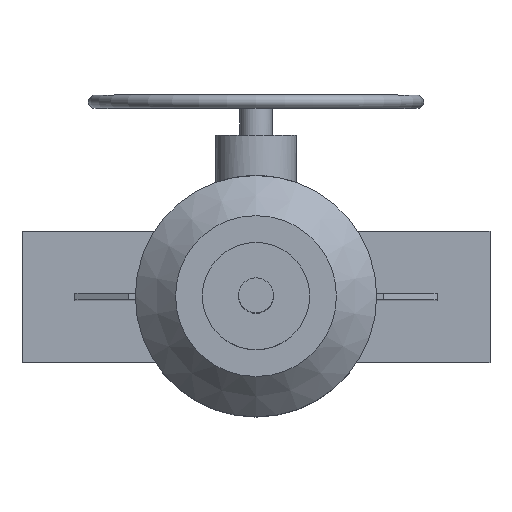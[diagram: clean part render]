
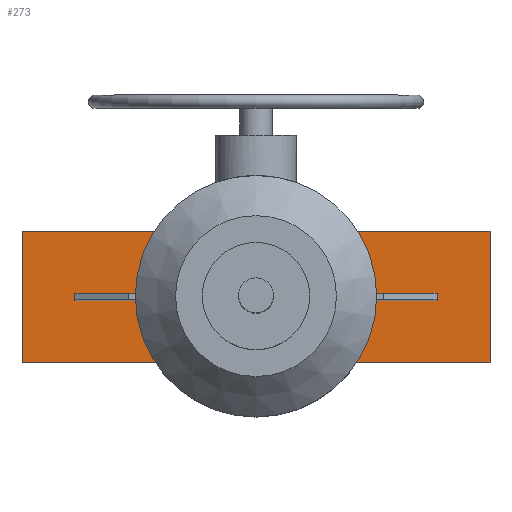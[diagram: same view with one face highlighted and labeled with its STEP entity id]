
A CAD part, top view. The second image highlights one B-rep face of the part: STEP entity #273.
In plain terms, the highlighted planar face has unit normal (0, 0, 1).
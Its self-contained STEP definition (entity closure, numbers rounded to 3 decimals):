
#273=ADVANCED_FACE('',(#1540,#1542),#1544,.T.);
#1540=FACE_BOUND('',#1541,.T.);
#1541=EDGE_LOOP('',(#2601,#2602,#2603,#2604,#2605,#2606,#2607,#2608));
#1542=FACE_BOUND('',#1543,.T.);
#1543=EDGE_LOOP('',(#2609,#2610,#2611,#2612,#2613,#2614,#2615,#2616));
#1544=PLANE('',#1545);
#1545=AXIS2_PLACEMENT_3D('',#1546,#1547,#1548);
#1546=CARTESIAN_POINT('',(0.,0.,280.));
#1547=DIRECTION('',(0.,0.,1.));
#1548=DIRECTION('',(1.,0.,0.));
#2601=ORIENTED_EDGE('',*,*,#3217,.F.);
#2602=ORIENTED_EDGE('',*,*,#3215,.T.);
#2603=ORIENTED_EDGE('',*,*,#3228,.T.);
#2604=ORIENTED_EDGE('',*,*,#3221,.T.);
#2605=ORIENTED_EDGE('',*,*,#3220,.F.);
#2606=ORIENTED_EDGE('',*,*,#3225,.T.);
#2607=ORIENTED_EDGE('',*,*,#3229,.T.);
#2608=ORIENTED_EDGE('',*,*,#3211,.T.);
#2609=ORIENTED_EDGE('',*,*,#3230,.F.);
#2610=ORIENTED_EDGE('',*,*,#3231,.F.);
#2611=ORIENTED_EDGE('',*,*,#3232,.F.);
#2612=ORIENTED_EDGE('',*,*,#3233,.F.);
#2613=ORIENTED_EDGE('',*,*,#3234,.F.);
#2614=ORIENTED_EDGE('',*,*,#3235,.F.);
#2615=ORIENTED_EDGE('',*,*,#3236,.F.);
#2616=ORIENTED_EDGE('',*,*,#3237,.F.);
#3211=EDGE_CURVE('',#3582,#3565,#3583,.T.);
#3215=EDGE_CURVE('',#3545,#3588,#3590,.T.);
#3217=EDGE_CURVE('',#3545,#3565,#3592,.T.);
#3220=EDGE_CURVE('',#3559,#3551,#3596,.T.);
#3221=EDGE_CURVE('',#3597,#3551,#3598,.T.);
#3225=EDGE_CURVE('',#3559,#3603,#3605,.T.);
#3228=EDGE_CURVE('',#3588,#3597,#3610,.T.);
#3229=EDGE_CURVE('',#3603,#3582,#3611,.T.);
#3230=EDGE_CURVE('',#3612,#3613,#3614,.T.);
#3231=EDGE_CURVE('',#3615,#3612,#3616,.F.);
#3232=EDGE_CURVE('',#3617,#3615,#3618,.F.);
#3233=EDGE_CURVE('',#3619,#3617,#3620,.F.);
#3234=EDGE_CURVE('',#3621,#3619,#3622,.T.);
#3235=EDGE_CURVE('',#3623,#3621,#3624,.T.);
#3236=EDGE_CURVE('',#3625,#3623,#3626,.F.);
#3237=EDGE_CURVE('',#3613,#3625,#3627,.T.);
#3545=VERTEX_POINT('',#4172);
#3551=VERTEX_POINT('',#4184);
#3559=VERTEX_POINT('',#4202);
#3565=VERTEX_POINT('',#4214);
#3582=VERTEX_POINT('',#4262);
#3583=LINE('',#4263,#4264);
#3588=VERTEX_POINT('',#4274);
#3590=LINE('',#4278,#4279);
#3592=LINE('',#4284,#4285);
#3596=LINE('',#4295,#4296);
#3597=VERTEX_POINT('',#4298);
#3598=LINE('',#4299,#4300);
#3603=VERTEX_POINT('',#4310);
#3605=LINE('',#4314,#4315);
#3610=LINE('',#4327,#4328);
#3611=LINE('',#4330,#4331);
#3612=VERTEX_POINT('',#4333);
#3613=VERTEX_POINT('',#4334);
#3614=LINE('',#4335,#4336);
#3615=VERTEX_POINT('',#4338);
#3616=LINE('',#4339,#4340);
#3617=VERTEX_POINT('',#4342);
#3618=CIRCLE('',#4343,13.);
#3619=VERTEX_POINT('',#4347);
#3620=LINE('',#4348,#4349);
#3621=VERTEX_POINT('',#4351);
#3622=LINE('',#4352,#4353);
#3623=VERTEX_POINT('',#4355);
#3624=LINE('',#4356,#4357);
#3625=VERTEX_POINT('',#4359);
#3626=CIRCLE('',#4360,13.);
#3627=LINE('',#4364,#4365);
#4172=CARTESIAN_POINT('',(70.,-49.,280.));
#4184=CARTESIAN_POINT('',(70.,49.,280.));
#4202=CARTESIAN_POINT('',(-70.,49.,280.));
#4214=CARTESIAN_POINT('',(-70.,-49.,280.));
#4262=CARTESIAN_POINT('',(-174.5,-49.,280.));
#4263=CARTESIAN_POINT('',(-174.5,-49.,280.));
#4264=VECTOR('',#4265,1.);
#4265=DIRECTION('',(1.,0.,0.));
#4274=CARTESIAN_POINT('',(174.5,-49.,280.));
#4278=CARTESIAN_POINT('',(70.,-49.,280.));
#4279=VECTOR('',#4280,1.);
#4280=DIRECTION('',(1.,0.,0.));
#4284=CARTESIAN_POINT('',(70.,-49.,280.));
#4285=VECTOR('',#4286,1.);
#4286=DIRECTION('',(-1.,0.,0.));
#4295=CARTESIAN_POINT('',(-70.,49.,280.));
#4296=VECTOR('',#4297,1.);
#4297=DIRECTION('',(1.,0.,0.));
#4298=CARTESIAN_POINT('',(174.5,49.,280.));
#4299=CARTESIAN_POINT('',(174.5,49.,280.));
#4300=VECTOR('',#4301,1.);
#4301=DIRECTION('',(-1.,0.,0.));
#4310=CARTESIAN_POINT('',(-174.5,49.,280.));
#4314=CARTESIAN_POINT('',(-70.,49.,280.));
#4315=VECTOR('',#4316,1.);
#4316=DIRECTION('',(-1.,0.,0.));
#4327=CARTESIAN_POINT('',(174.5,-49.,280.));
#4328=VECTOR('',#4329,1.);
#4329=DIRECTION('',(0.,1.,0.));
#4330=CARTESIAN_POINT('',(-174.5,49.,280.));
#4331=VECTOR('',#4332,1.);
#4332=DIRECTION('',(0.,-1.,0.));
#4333=CARTESIAN_POINT('',(-135.,2.5,280.));
#4334=CARTESIAN_POINT('',(-135.,-2.5,280.));
#4335=CARTESIAN_POINT('',(-135.,2.5,280.));
#4336=VECTOR('',#4337,1.);
#4337=DIRECTION('',(0.,-1.,0.));
#4338=CARTESIAN_POINT('',(-12.757,2.5,280.));
#4339=CARTESIAN_POINT('',(-135.,2.5,280.));
#4340=VECTOR('',#4341,1.);
#4341=DIRECTION('',(1.,0.,0.));
#4342=CARTESIAN_POINT('',(12.757,2.5,280.));
#4343=AXIS2_PLACEMENT_3D('',#4344,#4345,#4346);
#4344=CARTESIAN_POINT('',(0.,0.,280.));
#4345=DIRECTION('',(0.,0.,-1.));
#4346=DIRECTION('',(-0.981,0.192,0.));
#4347=CARTESIAN_POINT('',(135.,2.5,280.));
#4348=CARTESIAN_POINT('',(12.757,2.5,280.));
#4349=VECTOR('',#4350,1.);
#4350=DIRECTION('',(1.,0.,0.));
#4351=CARTESIAN_POINT('',(135.,-2.5,280.));
#4352=CARTESIAN_POINT('',(135.,-2.5,280.));
#4353=VECTOR('',#4354,1.);
#4354=DIRECTION('',(0.,1.,0.));
#4355=CARTESIAN_POINT('',(12.757,-2.5,280.));
#4356=CARTESIAN_POINT('',(12.757,-2.5,280.));
#4357=VECTOR('',#4358,1.);
#4358=DIRECTION('',(1.,0.,0.));
#4359=CARTESIAN_POINT('',(-12.757,-2.5,280.));
#4360=AXIS2_PLACEMENT_3D('',#4361,#4362,#4363);
#4361=CARTESIAN_POINT('',(0.,0.,280.));
#4362=DIRECTION('',(0.,0.,-1.));
#4363=DIRECTION('',(0.981,-0.192,0.));
#4364=CARTESIAN_POINT('',(-135.,-2.5,280.));
#4365=VECTOR('',#4366,1.);
#4366=DIRECTION('',(1.,0.,0.));
